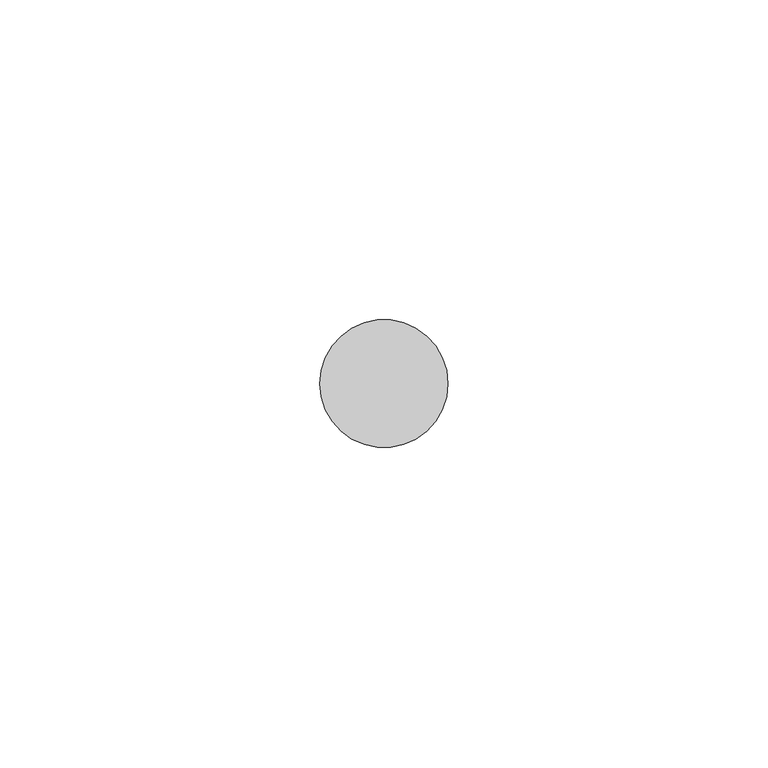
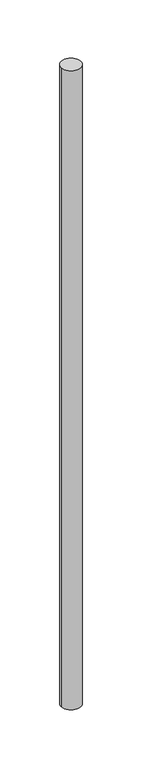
"""IFC4 building model written with IfcOpenShell, lengths in millimetres: member geometry, Импост круглого сечения : Радиус 25 мм."""

from ifc_helpers import new_model, si_unit, point, frame, frame_2d, origin, place, context, project, spatial, circle_curve, trimmed, segment, composite_curve, outline, extrude, source, transform, mapped, element, save


def member_bad90bd3(model_context):
    return source(origin(), model_context, "Body", "SweptSolid", [
        extrude(outline(composite_curve([segment(trimmed(circle_curve(frame_2d((-10.0, 0.0)), 10.0), [point((0.0, 0.0))], [point((-20.0, 0.0))], False, "CARTESIAN"), True, "CONTINUOUS"), segment(trimmed(circle_curve(frame_2d((-10.0, 0.0)), 10.0), [point((-20.0, 0.0))], [point((0.0, 0.0))], False, "CARTESIAN"), True, "CONTINUOUS")], self_intersect=False)), frame((0.0, 0.0, -700.0), z_axis=(0.0, 0.0, 1.0), x_axis=(1.0, 0.0, 0.0)), (0.0, 0.0, 1.0), 700.0),
    ])


if __name__ == "__main__":
    model = new_model("IFC4")
    model_context = context("Model", 3, world=origin())
    ifc_project = project(units=[si_unit("LENGTHUNIT", "METRE", prefix="MILLI")], contexts=[model_context])
    site = spatial("IfcSite", under=ifc_project)
    building = spatial("IfcBuilding", under=site)
    placement = place(None, origin())
    member_shape = member_bad90bd3(model_context)
    element("IfcMember", 1, ObjectType="Импост круглого сечения : Радиус 25 мм", at=placement, inside=building, context=model_context, shape_type="MappedRepresentation", body=[
        mapped(member_shape, transform((0.0, 0.0, 0.0), x_axis=(1.0, 0.0, 0.0), y_axis=(0.0, 1.0, 0.0), z_axis=(0.0, 0.0, 1.0))),
    ])
    save(model, "model.ifc")
